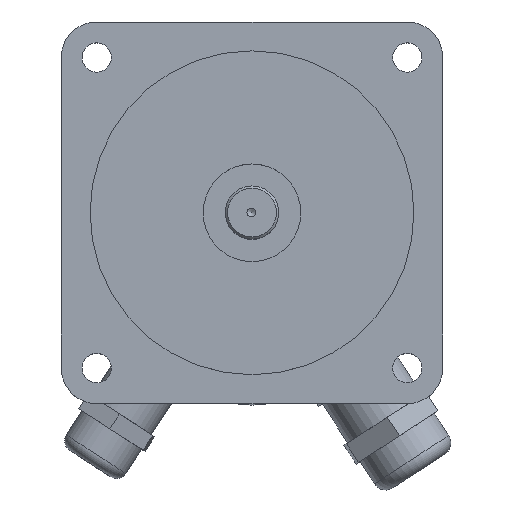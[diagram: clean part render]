
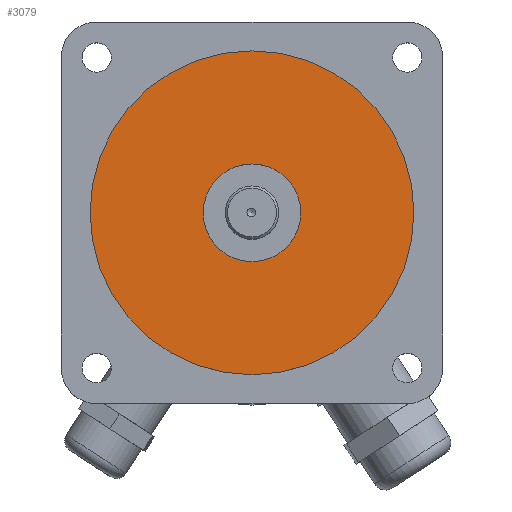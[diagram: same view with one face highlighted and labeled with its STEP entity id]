
A CAD part, top view. The second image highlights one B-rep face of the part: STEP entity #3079.
In plain terms, the highlighted planar face has unit normal (0, 0, 1).
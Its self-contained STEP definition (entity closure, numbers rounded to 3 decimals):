
#3016=CARTESIAN_POINT('',(-80.773,-89.811,149.505));
#3017=VERTEX_POINT('',#3016);
#3018=CARTESIAN_POINT('',(-69.773,-89.811,149.505));
#3019=DIRECTION('',(0.0,0.0,-1.0));
#3020=DIRECTION('',(1.0,0.0,0.0));
#3021=AXIS2_PLACEMENT_3D('',#3018,#3019,#3020);
#3022=CIRCLE('',#3021,11.0);
#3023=EDGE_CURVE('',#3017,#3017,#3022,.T.);
#3045=CARTESIAN_POINT('',(-106.273,-89.811,149.505));
#3046=VERTEX_POINT('',#3045);
#3047=CARTESIAN_POINT('',(-69.773,-89.811,149.505));
#3048=DIRECTION('',(0.0,0.0,-1.0));
#3049=DIRECTION('',(1.0,0.0,0.0));
#3050=AXIS2_PLACEMENT_3D('',#3047,#3048,#3049);
#3051=CIRCLE('',#3050,36.5);
#3052=EDGE_CURVE('',#3046,#3046,#3051,.T.);
#3068=CARTESIAN_POINT('',(-69.773,-89.811,149.505));
#3069=DIRECTION('',(0.0,0.0,-1.0));
#3070=DIRECTION('',(1.0,0.0,0.0));
#3071=AXIS2_PLACEMENT_3D('',#3068,#3069,#3070);
#3072=PLANE('',#3071);
#3073=ORIENTED_EDGE('',*,*,#3052,.F.);
#3074=EDGE_LOOP('',(#3073));
#3075=FACE_OUTER_BOUND('',#3074,.T.);
#3076=ORIENTED_EDGE('',*,*,#3023,.T.);
#3077=EDGE_LOOP('',(#3076));
#3078=FACE_BOUND('',#3077,.T.);
#3079=ADVANCED_FACE('',(#3075,#3078),#3072,.F.);
